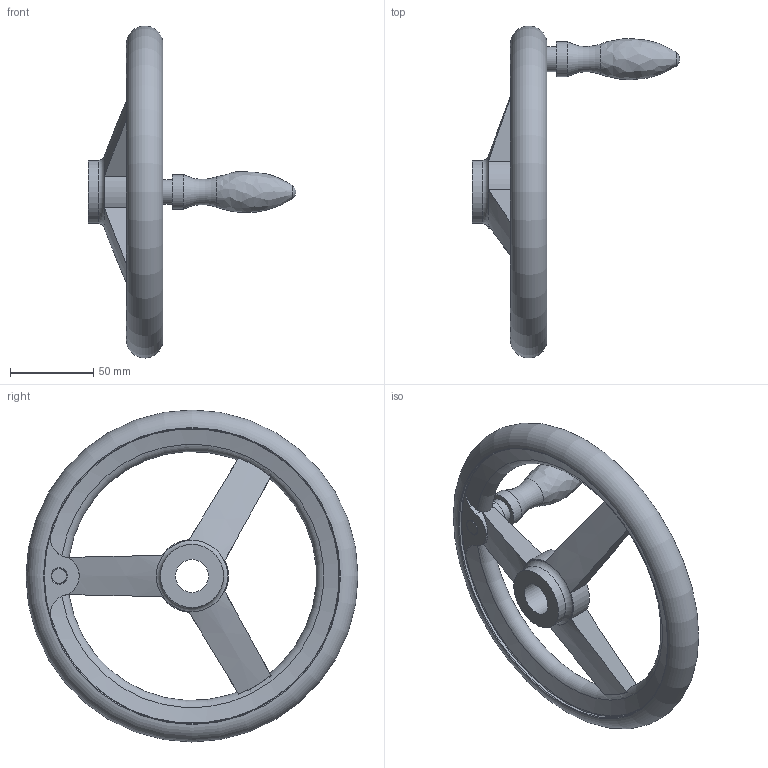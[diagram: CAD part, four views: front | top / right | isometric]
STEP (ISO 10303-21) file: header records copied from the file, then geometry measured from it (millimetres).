
FILE_DESCRIPTION( ( 'STEP AP203' ), '1' );
FILE_NAME( 'C:/Temp/Ganter_Step_05_03_2020/data/1_3/din_950/din_950_b/din_950_b_d/Handwheel DIN 950-GG-200-B20-D.stp', '2020-03-05T10:29:46', ( 'License CC BY-ND 4.0' ), ( 'CADENAS' ), ' ', 'PARTsolutions', ' ' );
FILE_SCHEMA( ( 'CONFIG_CONTROL_DESIGN' ) );
Length unit declared in the file: millimetre
Products named in the file (1): _Handwheel DIN 950-GG-200-B20-D
Bounding box: 125 x 199.99 x 199.99 mm (x, y, z)
Volume: 299023 mm3; surface area: 64093.9 mm2
Topology: 1 solids, 1 shells, 51 faces, 140 edges, 89 vertices
Faces by surface type: cylinder 16, torus 15, plane 12, cone 6, bspline 1, sphere 1
Full cylindrical faces by diameter (mm): 15 x1, 20 x1, 21 x1, 38 x2, 178 x2
Entity records: 1954 total; most frequent: CARTESIAN_POINT 774, ORIENTED_EDGE 226, DIRECTION 218, EDGE_CURVE 113, AXIS2_PLACEMENT_3D 102, VERTEX_POINT 85, EDGE_LOOP 78, FACE_OUTER_BOUND 67
